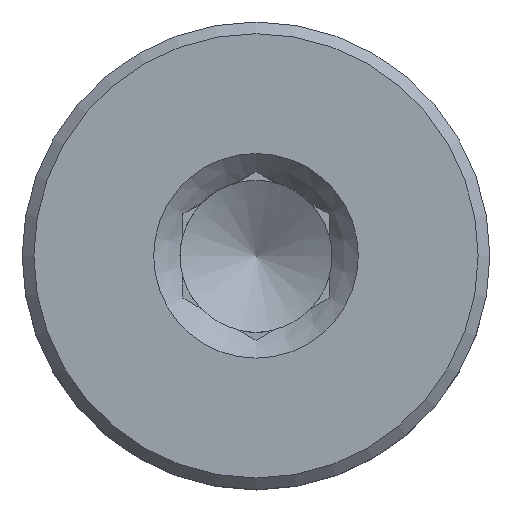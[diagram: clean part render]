
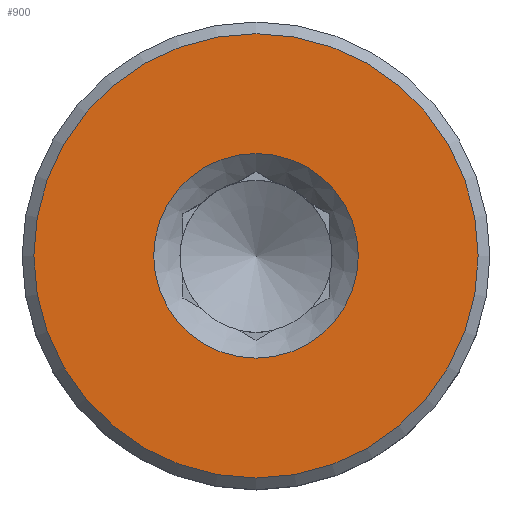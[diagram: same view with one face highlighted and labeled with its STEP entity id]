
A CAD part, top view. The second image highlights one B-rep face of the part: STEP entity #900.
In plain terms, the highlighted planar face has unit normal (0, 0, 1).
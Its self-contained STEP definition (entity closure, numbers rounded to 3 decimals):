
#900=ADVANCED_FACE('', (#910,#920), #930, .T.);
#1630=AXIS2_PLACEMENT_3D('Ax2Pl3d', #1640, #1650, #1660);
#3510=AXIS2_PLACEMENT_3D('Ax2Pl3d', #3520, #3530, #3540);
#3550=AXIS2_PLACEMENT_3D('Ax2Pl3d', #3560, #3570, #3580);
#1640=CARTESIAN_POINT('HicPkt', (147.797,0.,51.86));
#5170=CARTESIAN_POINT('', (147.797,1.75,51.86));
#3520=CARTESIAN_POINT('HicPkt', (147.797,0.,51.86));
#5900=CARTESIAN_POINT('', (147.797,-3.8,51.86));
#3560=CARTESIAN_POINT('HicPkt', (151.597,0.,51.86));
#6040=CIRCLE('Circle', #1630, 1.75);
#6300=CIRCLE('Circle', #3510, 3.8);
#1650=DIRECTION('Axis', (0.,0.,-1.));
#1660=DIRECTION('RefDirection', (-1.,-0.,0.));
#3530=DIRECTION('Axis', (0.,0.,-1.));
#3540=DIRECTION('RefDirection', (-1.,-0.,0.));
#3570=DIRECTION('Axis', (0.,0.,1.));
#3580=DIRECTION('RefDirection', (1.,0.,-0.));
#9010=EDGE_CURVE('', #9020, #9020, #6040, .T.);
#10360=EDGE_CURVE('', #10370, #10370, #6300, .T.);
#11930=EDGE_LOOP('Edge_loop', (#11940));
#11950=EDGE_LOOP('Edge_loop', (#11960));
#920=FACE_BOUND('', #11950, .T.);
#910=FACE_OUTER_BOUND('Face_outer_bound', #11930, .T.);
#11940=ORIENTED_EDGE('', *, *, #10360, .F.);
#11960=ORIENTED_EDGE('', *, *, #9010, .T.);
#930=PLANE('Plane', #3550);
#9020=VERTEX_POINT('', #5170);
#10370=VERTEX_POINT('', #5900);
